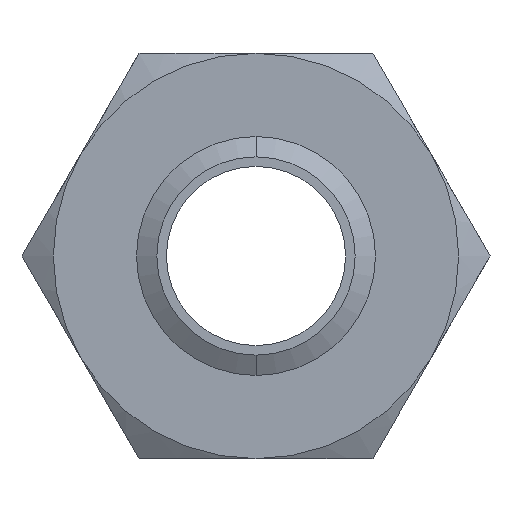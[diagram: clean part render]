
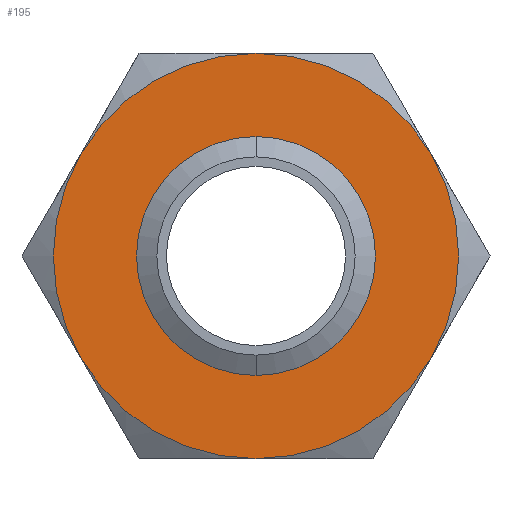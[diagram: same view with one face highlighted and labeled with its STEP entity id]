
A CAD part, front view. The second image highlights one B-rep face of the part: STEP entity #195.
In plain terms, the highlighted planar face has unit normal (0, -1, 0).
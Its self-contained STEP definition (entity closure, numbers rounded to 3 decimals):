
#87 = ORIENTED_EDGE ( 'NONE', *, *, #456, .F. ) ;
#88 = EDGE_LOOP ( 'NONE', ( #87, #105 ) ) ;
#100 = ORIENTED_EDGE ( 'NONE', *, *, #104, .F. ) ;
#102 = EDGE_CURVE ( 'NONE', #458, #457, #626, .T. ) ;
#104 = EDGE_CURVE ( 'NONE', #188, #214, #680, .T. ) ;
#105 = ORIENTED_EDGE ( 'NONE', *, *, #102, .F. ) ;
#177 = ORIENTED_EDGE ( 'NONE', *, *, #215, .F. ) ;
#179 = VERTEX_POINT ( 'NONE', #833 ) ;
#181 = VERTEX_POINT ( 'NONE', #827 ) ;
#183 = EDGE_CURVE ( 'NONE', #179, #188, #826, .T. ) ;
#184 = ORIENTED_EDGE ( 'NONE', *, *, #183, .F. ) ;
#186 = EDGE_CURVE ( 'NONE', #181, #179, #821, .T. ) ;
#188 = VERTEX_POINT ( 'NONE', #812 ) ;
#189 = ORIENTED_EDGE ( 'NONE', *, *, #186, .F. ) ;
#190 = EDGE_LOOP ( 'NONE', ( #184, #189, #2152, #209, #177, #100 ) ) ;
#195 = ADVANCED_FACE ( 'NONE', ( #811, #810 ), #809, .F. ) ;
#200 = EDGE_CURVE ( 'NONE', #208, #203, #858, .T. ) ;
#203 = VERTEX_POINT ( 'NONE', #844 ) ;
#208 = VERTEX_POINT ( 'NONE', #834 ) ;
#209 = ORIENTED_EDGE ( 'NONE', *, *, #200, .F. ) ;
#210 = EDGE_CURVE ( 'NONE', #203, #181, #895, .T. ) ;
#214 = VERTEX_POINT ( 'NONE', #889 ) ;
#215 = EDGE_CURVE ( 'NONE', #214, #208, #884, .T. ) ;
#456 = EDGE_CURVE ( 'NONE', #457, #458, #1373, .T. ) ;
#457 = VERTEX_POINT ( 'NONE', #1365 ) ;
#458 = VERTEX_POINT ( 'NONE', #1364 ) ;
#622 = DIRECTION ( 'NONE',  ( 0., 0., -1. ) ) ;
#623 = DIRECTION ( 'NONE',  ( 0., -1., 0. ) ) ;
#624 = CARTESIAN_POINT ( 'NONE',  ( 0., 0., 0. ) ) ;
#625 = AXIS2_PLACEMENT_3D ( 'NONE', #624, #623, #622 ) ;
#626 = CIRCLE ( 'NONE', #625, 23.237 ) ;
#627 = CARTESIAN_POINT ( 'NONE',  ( 0., 0., 0. ) ) ;
#677 = DIRECTION ( 'NONE',  ( 0., 0., 1. ) ) ;
#678 = DIRECTION ( 'NONE',  ( 0., 1., 0. ) ) ;
#679 = AXIS2_PLACEMENT_3D ( 'NONE', #627, #678, #677 ) ;
#680 = CIRCLE ( 'NONE', #679, 47.5 ) ;
#805 = DIRECTION ( 'NONE',  ( 0., 0., 1. ) ) ;
#806 = DIRECTION ( 'NONE',  ( 0., 1., 0. ) ) ;
#807 = CARTESIAN_POINT ( 'NONE',  ( 27.424, 0., -47.5 ) ) ;
#808 = AXIS2_PLACEMENT_3D ( 'NONE', #807, #806, #805 ) ;
#809 = PLANE ( 'NONE',  #808 ) ;
#810 = FACE_BOUND ( 'NONE', #88, .T. ) ;
#811 = FACE_OUTER_BOUND ( 'NONE', #190, .T. ) ;
#812 = CARTESIAN_POINT ( 'NONE',  ( 41.136, 0., 23.75 ) ) ;
#817 = DIRECTION ( 'NONE',  ( 0., 0., 1. ) ) ;
#818 = DIRECTION ( 'NONE',  ( 0., 1., 0. ) ) ;
#819 = CARTESIAN_POINT ( 'NONE',  ( 0., 0., 0. ) ) ;
#820 = AXIS2_PLACEMENT_3D ( 'NONE', #819, #818, #817 ) ;
#821 = CIRCLE ( 'NONE', #820, 47.5 ) ;
#822 = DIRECTION ( 'NONE',  ( 0., 0., 1. ) ) ;
#823 = DIRECTION ( 'NONE',  ( 0., 1., 0. ) ) ;
#824 = CARTESIAN_POINT ( 'NONE',  ( 0., 0., 0. ) ) ;
#825 = AXIS2_PLACEMENT_3D ( 'NONE', #824, #823, #822 ) ;
#826 = CIRCLE ( 'NONE', #825, 47.5 ) ;
#827 = CARTESIAN_POINT ( 'NONE',  ( -41.136, 0., 23.75 ) ) ;
#833 = CARTESIAN_POINT ( 'NONE',  ( 0., 0., 47.5 ) ) ;
#834 = CARTESIAN_POINT ( 'NONE',  ( 0., 0., -47.5 ) ) ;
#844 = CARTESIAN_POINT ( 'NONE',  ( -41.136, 0., -23.75 ) ) ;
#849 = DIRECTION ( 'NONE',  ( 0., 0., 1. ) ) ;
#850 = DIRECTION ( 'NONE',  ( 0., 1., 0. ) ) ;
#851 = CARTESIAN_POINT ( 'NONE',  ( 0., 0., 0. ) ) ;
#852 = AXIS2_PLACEMENT_3D ( 'NONE', #851, #850, #849 ) ;
#858 = CIRCLE ( 'NONE', #852, 47.5 ) ;
#880 = DIRECTION ( 'NONE',  ( 0., 0., 1. ) ) ;
#881 = DIRECTION ( 'NONE',  ( 0., 1., 0. ) ) ;
#882 = CARTESIAN_POINT ( 'NONE',  ( 0., 0., 0. ) ) ;
#883 = AXIS2_PLACEMENT_3D ( 'NONE', #882, #881, #880 ) ;
#884 = CIRCLE ( 'NONE', #883, 47.5 ) ;
#889 = CARTESIAN_POINT ( 'NONE',  ( 41.136, 0., -23.75 ) ) ;
#891 = DIRECTION ( 'NONE',  ( 0., 0., 1. ) ) ;
#892 = DIRECTION ( 'NONE',  ( 0., 1., 0. ) ) ;
#893 = CARTESIAN_POINT ( 'NONE',  ( 0., 0., 0. ) ) ;
#894 = AXIS2_PLACEMENT_3D ( 'NONE', #893, #892, #891 ) ;
#895 = CIRCLE ( 'NONE', #894, 47.5 ) ;
#1364 = CARTESIAN_POINT ( 'NONE',  ( 0., 0., 23.237 ) ) ;
#1365 = CARTESIAN_POINT ( 'NONE',  ( 0., 0., -23.237 ) ) ;
#1366 = DIRECTION ( 'NONE',  ( 0., 0., -1. ) ) ;
#1367 = DIRECTION ( 'NONE',  ( 0., -1., 0. ) ) ;
#1368 = CARTESIAN_POINT ( 'NONE',  ( 0., 0., 0. ) ) ;
#1369 = AXIS2_PLACEMENT_3D ( 'NONE', #1368, #1367, #1366 ) ;
#1373 = CIRCLE ( 'NONE', #1369, 23.237 ) ;
#2152 = ORIENTED_EDGE ( 'NONE', *, *, #210, .F. ) ;
